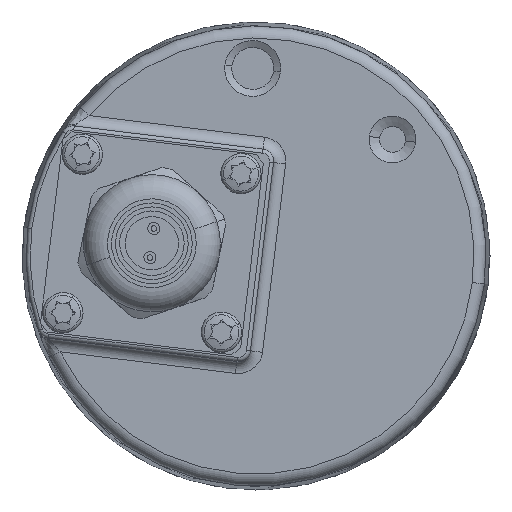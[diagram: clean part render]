
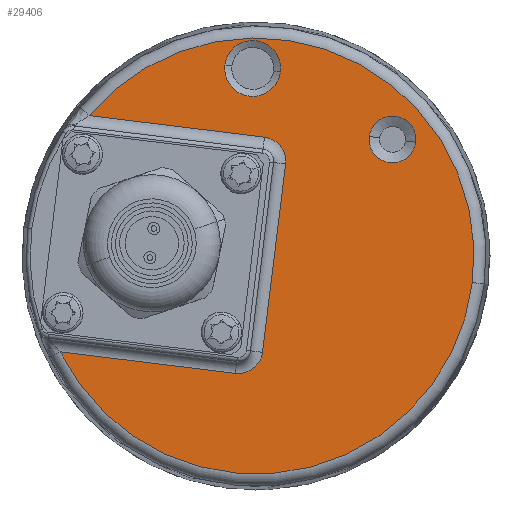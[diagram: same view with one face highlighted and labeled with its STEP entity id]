
A CAD part, left-side view. The second image highlights one B-rep face of the part: STEP entity #29406.
In plain terms, the highlighted planar face has unit normal (-1, 0, 0).
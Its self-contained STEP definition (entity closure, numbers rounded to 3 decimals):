
#119 = EDGE_LOOP ( 'NONE', ( #29669, #26764 ) ) ;
#483 = DIRECTION ( 'NONE',  ( 1., 0., 0. ) ) ;
#711 = EDGE_CURVE ( 'NONE', #21838, #4765, #4581, .T. ) ;
#1376 = DIRECTION ( 'NONE',  ( 0., -0.993, -0.122 ) ) ;
#2109 = CIRCLE ( 'NONE', #31052, 3.466 ) ;
#2670 = CARTESIAN_POINT ( 'NONE',  ( -30.5, 3.846, 23.669 ) ) ;
#3042 = EDGE_CURVE ( 'NONE', #18987, #4765, #20497, .T. ) ;
#4153 = CARTESIAN_POINT ( 'NONE',  ( -30.5, 26.845, -11.565 ) ) ;
#4581 = LINE ( 'NONE', #27731, #35238 ) ;
#4765 = VERTEX_POINT ( 'NONE', #38281 ) ;
#4842 = DIRECTION ( 'NONE',  ( -1., 0., 0. ) ) ;
#5373 = EDGE_CURVE ( 'NONE', #19526, #5685, #9513, .T. ) ;
#5685 = VERTEX_POINT ( 'NONE', #35709 ) ;
#6100 = DIRECTION ( 'NONE',  ( 1., 0., 0. ) ) ;
#6965 = AXIS2_PLACEMENT_3D ( 'NONE', #33308, #36346, #15502 ) ;
#7021 = AXIS2_PLACEMENT_3D ( 'NONE', #8008, #28733, #10923 ) ;
#7152 = DIRECTION ( 'NONE',  ( 0., 0.993, 0.122 ) ) ;
#7251 = PLANE ( 'NONE',  #8352 ) ;
#7631 = ORIENTED_EDGE ( 'NONE', *, *, #10412, .T. ) ;
#8008 = CARTESIAN_POINT ( 'NONE',  ( -30.5, -16.919, 14.45 ) ) ;
#8352 = AXIS2_PLACEMENT_3D ( 'NONE', #36976, #19128, #1376 ) ;
#9513 = CIRCLE ( 'NONE', #32215, 27.022 ) ;
#9595 = CIRCLE ( 'NONE', #24353, 3. ) ;
#9611 = CARTESIAN_POINT ( 'NONE',  ( -30.5, 0., 0. ) ) ;
#9880 = EDGE_CURVE ( 'NONE', #19503, #29759, #2109, .T. ) ;
#10137 = EDGE_CURVE ( 'NONE', #23385, #28365, #16407, .T. ) ;
#10412 = EDGE_CURVE ( 'NONE', #5685, #18537, #22881, .T. ) ;
#10757 = VECTOR ( 'NONE', #12559, 1000. ) ;
#10923 = DIRECTION ( 'NONE',  ( 0., -0.993, -0.122 ) ) ;
#10964 = ORIENTED_EDGE ( 'NONE', *, *, #3042, .F. ) ;
#11003 = DIRECTION ( 'NONE',  ( 1., 0., 0. ) ) ;
#11101 = DIRECTION ( 'NONE',  ( 0., -0.993, -0.122 ) ) ;
#11946 = ORIENTED_EDGE ( 'NONE', *, *, #711, .T. ) ;
#12559 = DIRECTION ( 'NONE',  ( 0., -0.993, -0.122 ) ) ;
#12586 = DIRECTION ( 'NONE',  ( 0., -0.993, -0.122 ) ) ;
#13188 = CARTESIAN_POINT ( 'NONE',  ( -30.5, -2.542, 14.549 ) ) ;
#14090 = CARTESIAN_POINT ( 'NONE',  ( -30.5, 0., 0. ) ) ;
#14639 = LINE ( 'NONE', #4153, #30406 ) ;
#14842 = CARTESIAN_POINT ( 'NONE',  ( -30.5, 24.27, -11.881 ) ) ;
#15502 = DIRECTION ( 'NONE',  ( 0., -0.993, -0.122 ) ) ;
#16407 = CIRCLE ( 'NONE', #7021, 2.899 ) ;
#16719 = CARTESIAN_POINT ( 'NONE',  ( -30.5, -3.665, 11.388 ) ) ;
#17917 = EDGE_CURVE ( 'NONE', #21838, #33225, #9595, .T. ) ;
#18194 = CARTESIAN_POINT ( 'NONE',  ( -30.5, 0.406, 23.246 ) ) ;
#18277 = CIRCLE ( 'NONE', #28625, 2.899 ) ;
#18537 = VERTEX_POINT ( 'NONE', #28518 ) ;
#18618 = DIRECTION ( 'NONE',  ( 0., 0.122, -0.993 ) ) ;
#18654 = EDGE_CURVE ( 'NONE', #28365, #23385, #18277, .T. ) ;
#18818 = FACE_OUTER_BOUND ( 'NONE', #29294, .T. ) ;
#18987 = VERTEX_POINT ( 'NONE', #22368 ) ;
#19035 = CIRCLE ( 'NONE', #25845, 3.466 ) ;
#19128 = DIRECTION ( 'NONE',  ( 1., 0., 0. ) ) ;
#19503 = VERTEX_POINT ( 'NONE', #35408 ) ;
#19526 = VERTEX_POINT ( 'NONE', #14842 ) ;
#19920 = ORIENTED_EDGE ( 'NONE', *, *, #18654, .T. ) ;
#20483 = CARTESIAN_POINT ( 'NONE',  ( -30.5, -19.796, 14.097 ) ) ;
#20497 = CIRCLE ( 'NONE', #6965, 3. ) ;
#20501 = CARTESIAN_POINT ( 'NONE',  ( -30.5, -1.053, 14.731 ) ) ;
#21219 = DIRECTION ( 'NONE',  ( 0., -0.993, -0.122 ) ) ;
#21838 = VERTEX_POINT ( 'NONE', #16719 ) ;
#22368 = CARTESIAN_POINT ( 'NONE',  ( -30.5, 2.542, -14.549 ) ) ;
#22588 = CARTESIAN_POINT ( 'NONE',  ( -30.5, -0.688, 11.754 ) ) ;
#22881 = CIRCLE ( 'NONE', #29368, 27.022 ) ;
#23385 = VERTEX_POINT ( 'NONE', #20483 ) ;
#23817 = CARTESIAN_POINT ( 'NONE',  ( -30.5, -16.919, 14.45 ) ) ;
#24353 = AXIS2_PLACEMENT_3D ( 'NONE', #22588, #4842, #25545 ) ;
#25545 = DIRECTION ( 'NONE',  ( 0., -0.993, -0.122 ) ) ;
#25845 = AXIS2_PLACEMENT_3D ( 'NONE', #28814, #11003, #31777 ) ;
#26742 = FACE_BOUND ( 'NONE', #37641, .T. ) ;
#26764 = ORIENTED_EDGE ( 'NONE', *, *, #9880, .T. ) ;
#26796 = DIRECTION ( 'NONE',  ( 0., -0.993, -0.122 ) ) ;
#27354 = ORIENTED_EDGE ( 'NONE', *, *, #5373, .T. ) ;
#27731 = CARTESIAN_POINT ( 'NONE',  ( -30.5, -0.618, -13.425 ) ) ;
#27866 = ORIENTED_EDGE ( 'NONE', *, *, #38254, .T. ) ;
#28164 = ORIENTED_EDGE ( 'NONE', *, *, #10137, .T. ) ;
#28365 = VERTEX_POINT ( 'NONE', #33560 ) ;
#28518 = CARTESIAN_POINT ( 'NONE',  ( -30.5, 20.675, 17.399 ) ) ;
#28625 = AXIS2_PLACEMENT_3D ( 'NONE', #23817, #6100, #26796 ) ;
#28733 = DIRECTION ( 'NONE',  ( 1., 0., 0. ) ) ;
#28814 = CARTESIAN_POINT ( 'NONE',  ( -30.5, 0.406, 23.246 ) ) ;
#29294 = EDGE_LOOP ( 'NONE', ( #27866, #27354, #7631, #36934, #29318, #11946, #10964 ) ) ;
#29318 = ORIENTED_EDGE ( 'NONE', *, *, #17917, .F. ) ;
#29368 = AXIS2_PLACEMENT_3D ( 'NONE', #9611, #30363, #12586 ) ;
#29406 = ADVANCED_FACE ( 'NONE', ( #26742, #33734, #18818 ), #7251, .F. ) ;
#29669 = ORIENTED_EDGE ( 'NONE', *, *, #36561, .T. ) ;
#29759 = VERTEX_POINT ( 'NONE', #2670 ) ;
#30363 = DIRECTION ( 'NONE',  ( -1., 0., 0. ) ) ;
#30406 = VECTOR ( 'NONE', #7152, 1000. ) ;
#30583 = EDGE_CURVE ( 'NONE', #18537, #33225, #33555, .T. ) ;
#31052 = AXIS2_PLACEMENT_3D ( 'NONE', #18194, #483, #21219 ) ;
#31777 = DIRECTION ( 'NONE',  ( 0., -0.993, -0.122 ) ) ;
#31879 = DIRECTION ( 'NONE',  ( -1., 0., 0. ) ) ;
#32215 = AXIS2_PLACEMENT_3D ( 'NONE', #14090, #31879, #11101 ) ;
#33225 = VERTEX_POINT ( 'NONE', #20501 ) ;
#33308 = CARTESIAN_POINT ( 'NONE',  ( -30.5, 2.176, -11.571 ) ) ;
#33555 = LINE ( 'NONE', #13188, #10757 ) ;
#33560 = CARTESIAN_POINT ( 'NONE',  ( -30.5, -14.042, 14.804 ) ) ;
#33734 = FACE_BOUND ( 'NONE', #119, .T. ) ;
#35238 = VECTOR ( 'NONE', #18618, 1000. ) ;
#35408 = CARTESIAN_POINT ( 'NONE',  ( -30.5, -3.034, 22.824 ) ) ;
#35709 = CARTESIAN_POINT ( 'NONE',  ( -30.5, -26.821, -3.293 ) ) ;
#36346 = DIRECTION ( 'NONE',  ( -1., 0., 0. ) ) ;
#36561 = EDGE_CURVE ( 'NONE', #29759, #19503, #19035, .T. ) ;
#36934 = ORIENTED_EDGE ( 'NONE', *, *, #30583, .T. ) ;
#36976 = CARTESIAN_POINT ( 'NONE',  ( -30.5, 0., 0. ) ) ;
#37641 = EDGE_LOOP ( 'NONE', ( #19920, #28164 ) ) ;
#38254 = EDGE_CURVE ( 'NONE', #18987, #19526, #14639, .T. ) ;
#38281 = CARTESIAN_POINT ( 'NONE',  ( -30.5, -0.801, -11.937 ) ) ;
